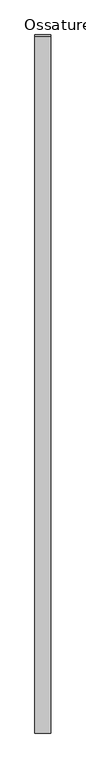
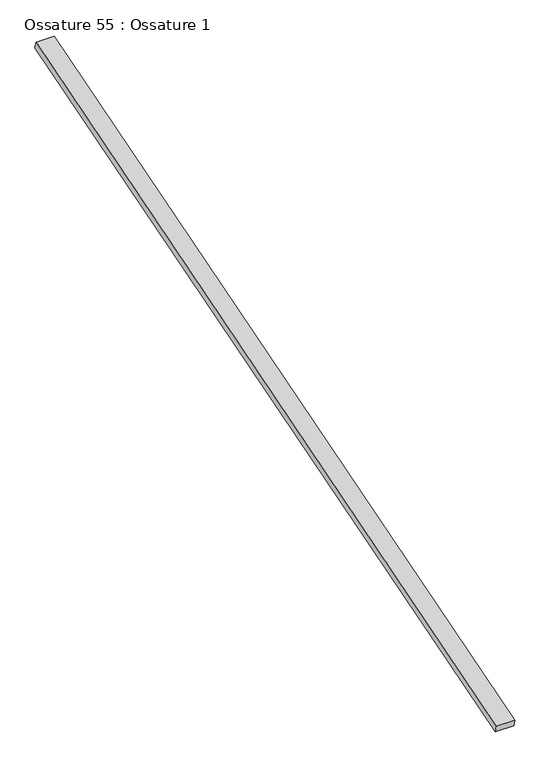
"""IFC4 building model written with IfcOpenShell, lengths in millimetres: beam geometry, Ossature 55 : Ossature 1."""

from ifc_helpers import new_model, si_unit, frame, origin, place, context, project, spatial, polyline, outline, extrude, source, transform, mapped, element, save


def ossature_55_ossature_1_604b8949(model_context):
    return source(origin(), model_context, "Body", "SweptSolid", [
        extrude(outline(polyline([(0.0, 0.0), (0.0, -4543.0299679), (-100.0, -4543.0299679), (-100.0, 0.0), (0.0, 0.0)])), frame((13394.6466393, -833.3913565, 8153.6336115), z_axis=(0.0, -0.28734788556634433, 0.9578262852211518), x_axis=(-1.0, 0.0, 0.0)), (0.0, 0.0, 1.0), 40.0),
    ])


if __name__ == "__main__":
    model = new_model("IFC4")
    model_context = context("Model", 3, world=origin())
    ifc_project = project(units=[si_unit("LENGTHUNIT", "METRE", prefix="MILLI")], contexts=[model_context])
    site = spatial("IfcSite", under=ifc_project)
    building = spatial("IfcBuilding", under=site)
    placement = place(None, origin())
    ossature_55_ossature_1_shape = ossature_55_ossature_1_604b8949(model_context)
    element("IfcBeam", 1, ObjectType="Ossature 55 : Ossature 1", at=placement, inside=building, context=model_context, shape_type="MappedRepresentation", body=[
        mapped(ossature_55_ossature_1_shape, transform((0.0, 0.0, 0.0), x_axis=(1.0, 0.0, 0.0), y_axis=(0.0, 1.0, 0.0), z_axis=(0.0, 0.0, 1.0))),
    ])
    save(model, "model.ifc")
